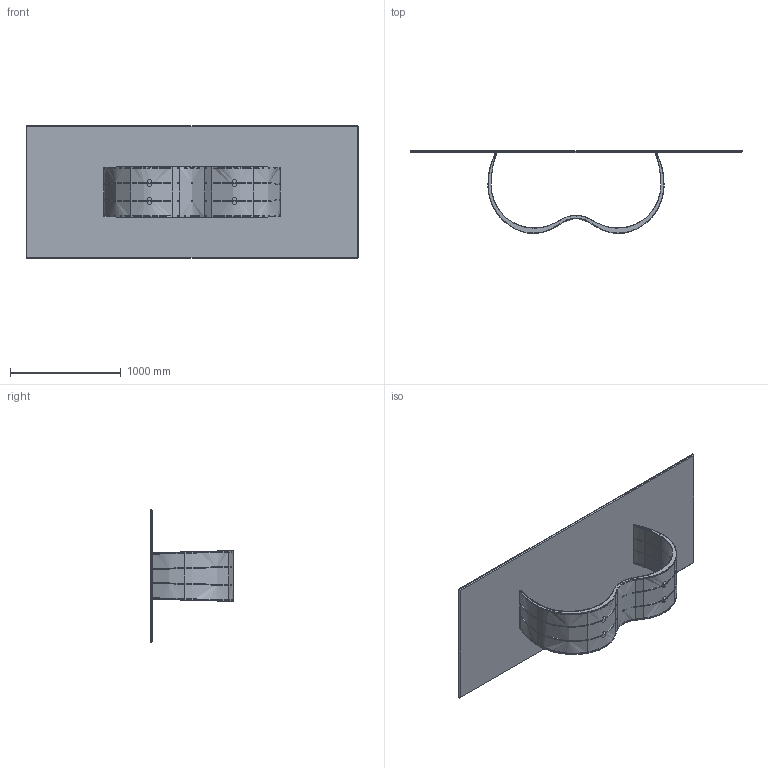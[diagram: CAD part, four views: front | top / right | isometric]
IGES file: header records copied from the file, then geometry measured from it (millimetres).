
Start section: SolidWorks IGES file using analytic representation for surfaces
Global section: file name: Y:\eforma\TECNICO\SOLIDWORKS\E-FORMA\1-TAVOLI\ALISEI 240-300\02 parts\AI24C_Alisei_300x120_Ceramic Rectangular.IGS; native system: SolidWorks 2022; preprocessor: SolidWorks 2022; author: eforma.tech; date: 240801.145116; units: millimetre
Bounding box: 3000 x 747 x 1200 mm (x, y, z)
Volume: 64803814.2 mm3; surface area: 20175556.8 mm2
Topology: 18 solids, 18 shells, 893 faces, 2511 edges, 1654 vertices
Faces by surface type: bspline 397, plane 350, revolution 146
